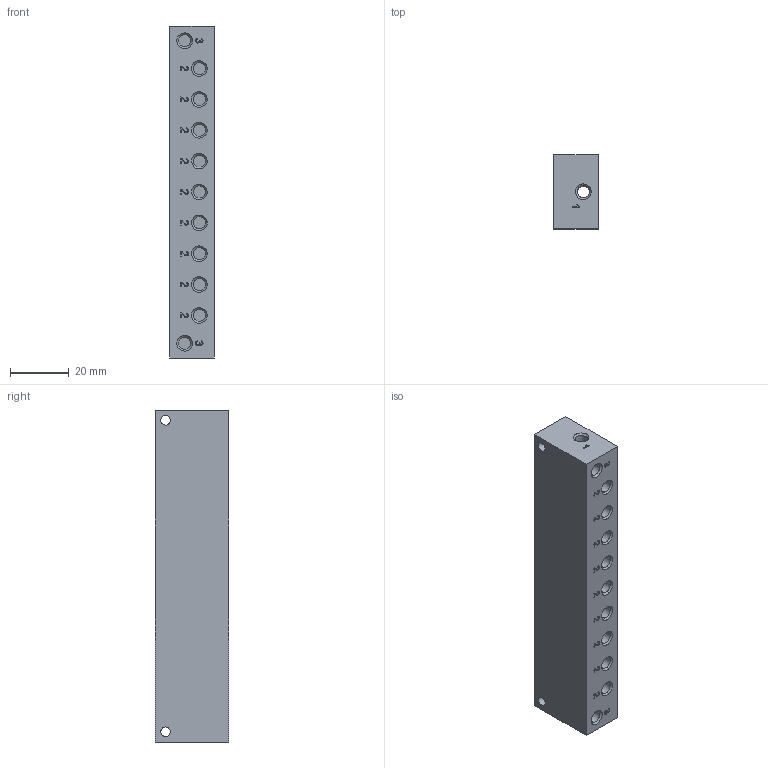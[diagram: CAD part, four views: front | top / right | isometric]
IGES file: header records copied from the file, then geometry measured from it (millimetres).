
Global section: file name: 395_09; native system: Autodesk Inventor 2014; preprocessor: unknown; author: R.Rivoltella; organization: Pneumax S.p.A.; date: 20161005.082425; units: millimetre
Bounding box: 15 x 25 x 113 mm (x, y, z)
Volume: 39517.8 mm3; surface area: 12577.9 mm2
Topology: 1 solids, 1 shells, 280 faces, 802 edges, 550 vertices
Faces by surface type: bspline 280
